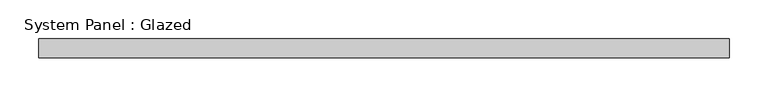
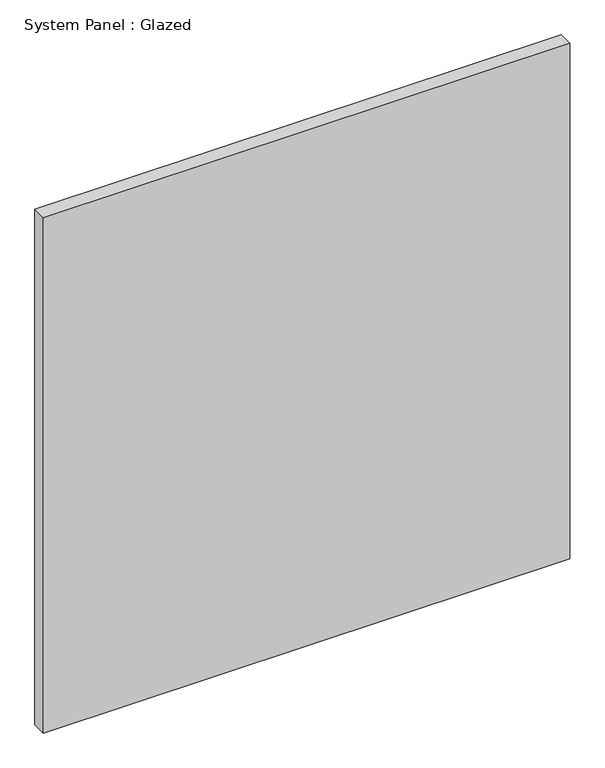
"""IFC4 building model written with IfcOpenShell, lengths in millimetres: plate geometry, System Panel : Glazed."""

from ifc_helpers import new_model, si_unit, origin, origin_with_axes, place, context, project, spatial, polyline, outline, extrude, source, transform, mapped, element, save


def system_panel_glazed_bfbae2ba(model_context):
    return source(origin(), model_context, "Body", "SweptSolid", [
        extrude(outline(polyline([(447.4999992, -72.5), (-447.4999992, -72.5), (-447.4999992, -47.5), (447.4999992, -47.5), (447.4999992, -72.5)])), origin_with_axes(), (0.0, 0.0, 1.0), 926.3515371),
    ])


if __name__ == "__main__":
    model = new_model("IFC4")
    model_context = context("Model", 3, world=origin())
    ifc_project = project(units=[si_unit("LENGTHUNIT", "METRE", prefix="MILLI")], contexts=[model_context])
    site = spatial("IfcSite", under=ifc_project)
    building = spatial("IfcBuilding", under=site)
    placement = place(None, origin())
    system_panel_glazed_shape = system_panel_glazed_bfbae2ba(model_context)
    element("IfcPlate", 1, ObjectType="System Panel : Glazed", at=placement, inside=building, context=model_context, shape_type="MappedRepresentation", body=[
        mapped(system_panel_glazed_shape, transform((0.0, 0.0, 0.0), x_axis=(1.0, 0.0, 0.0), y_axis=(0.0, 1.0, 0.0), z_axis=(0.0, 0.0, 1.0))),
    ])
    save(model, "model.ifc")
